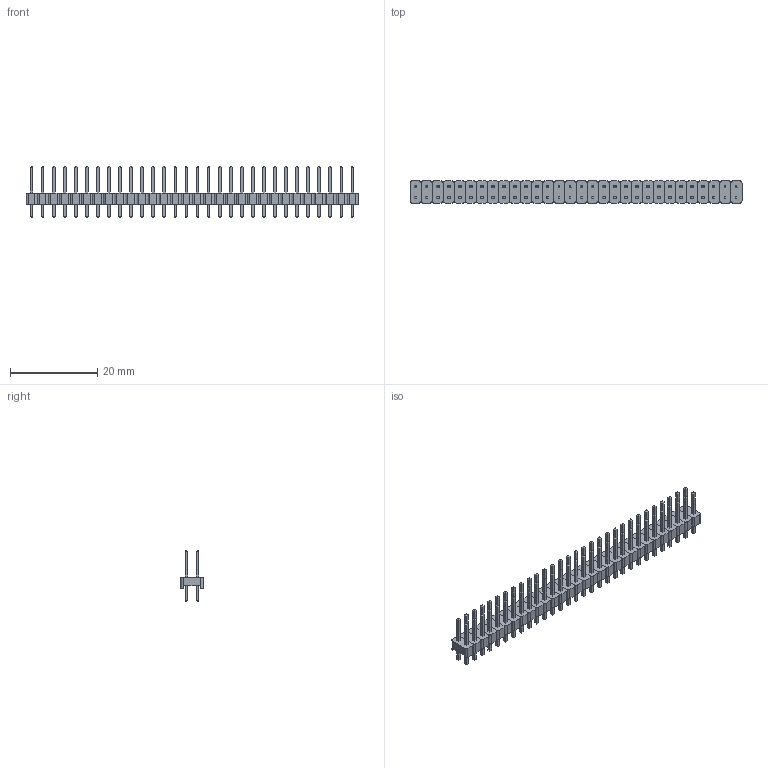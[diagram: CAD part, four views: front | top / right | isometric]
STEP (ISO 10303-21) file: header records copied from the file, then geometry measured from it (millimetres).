
FILE_DESCRIPTION(('FreeCAD Model'),'2;1');
FILE_NAME('Open CASCADE Shape Model','2022-04-06T16:03:11',( 'Engenharia Metaltex'),('Metaltex'), 'Open CASCADE STEP processor 7.5','FreeCAD','Unknown');
FILE_SCHEMA(('AUTOMOTIVE_DESIGN { 1 0 10303 214 1 1 1 1 }'));
Length unit declared in the file: millimetre
Products named in the file (121): BPDC; 30; Base029; Pino059; Pino060; 1; Base; Pino1; Pino2; 2; Base001; Pino003; Pino004; 3; Base002; Pino006; Pino005; 4; Base003; Pino008; Pino007; 5; Base004; Pino009; Pino010; 6; Base005; Pino012; Pino011; 7; Base006; Pino013; Pino014; 8; Base007; Pino015; Pino016; 9; Base008; Pino017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
Assembly tree (120 placements, depth 3):
  BPDC
    30
      Base029
      Pino059
      Pino060
    1
      Base
      Pino1
      Pino2
    2
      Base001
      Pino003
      Pino004
    3
      Base002
      Pino006
      Pino005
    4
      Base003
      Pino008
      Pino007
    5
      Base004
      Pino009
      Pino010
    6
      Base005
      Pino012
      Pino011
    7
      Base006
      Pino013
      Pino014
    8
      Base007
      Pino015
      Pino016
    9
      Base008
      Pino017
      Pino018
    10
      Base009
      Pino019
      Pino020
    11
      Base010
      Pino021
      Pino022
    12
      Base011
      Pino023
      Pino024
    13
      Base012
      Pino025
      Pino026
    14
      Base013
      Pino027
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Bounding box: 76.2 x 5.08 x 11.54 mm (x, y, z)
Volume: 1047.7 mm3; surface area: 3858.9 mm2
Topology: 90 solids, 90 shells, 1500 faces, 3480 edges, 2160 vertices
Faces by surface type: plane 1380, cylinder 120
Entity records: 90019 total; most frequent: CARTESIAN_POINT 14941, DIRECTION 13802, LINE 9960, VECTOR 9960, ORIENTED_EDGE 6960, PCURVE 6960, DEFINITIONAL_REPRESENTATION 6960, EDGE_CURVE 3480
